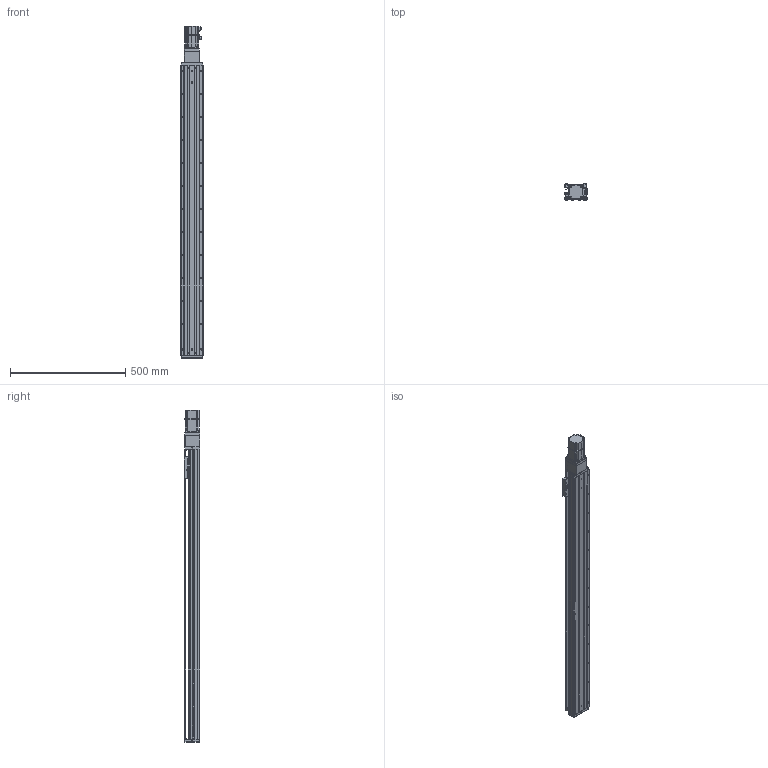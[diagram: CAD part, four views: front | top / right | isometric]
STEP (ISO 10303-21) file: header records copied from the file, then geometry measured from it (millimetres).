
FILE_DESCRIPTION (( 'STEP AP203' ), '1' );
FILE_NAME ('KTHA100-1100-BC-M20-C4L.step', '2022-04-26T01:43:20', ( '微软用户' ), ( '微软中国' ), 'SwSTEP 2.0', 'SolidWorks 2020', '' );
FILE_SCHEMA (( 'CONFIG_CONTROL_DESIGN' ));
Length unit declared in the file: millimetre
Products named in the file (18): CTHA60-016; EE_SX911P_R; GBT 70.3-M3℅6; CTHA60-017; _X2_4E0983F1_X0_200W_1; KTHA100-001_1260; CTHA60-021; CTHA86-013; KTHA100-002; GBT77-2000 M3×3; CTHA86-027; KTHA100-004; GBT 70.1-M3℅6; CTHA86-006-1_CTHA86-006-2; KTHA100-005; GBT70.1 M5℅16; KTHA100-1100-BC-M20-C4L; GB¨uT 70.2-M3¡Á5_M3¡Á6
Assembly tree (56 placements, depth 2):
  KTHA100-1100-BC-M20-C4L
    KTHA100-001_1260
    KTHA100-002
    KTHA100-004
    KTHA100-005
    GB¨uT 70.2-M3¡Á5_M3¡Á6  x6
    EE_SX911P_R  x3
    CTHA60-017  x3
    CTHA60-021  x2
    GBT77-2000 M3×3  x6
    GBT 70.1-M3℅6  x6
    GBT70.1 M5℅16  x14
    CTHA60-016  x2
    GBT 70.3-M3℅6  x6
    _X2_4E0983F1_X0_200W_1
    CTHA86-013
    CTHA86-027
    CTHA86-006-1_CTHA86-006-2
Bounding box: 98.82 x 68 x 1442.5 mm (x, y, z)
Volume: 5306653.8 mm3; surface area: 870132.3 mm2
Topology: 59 solids, 59 shells, 2507 faces, 6024 edges, 3724 vertices
Faces by surface type: plane 1287, cylinder 691, cone 340, torus 104, bspline 69, sphere 16
Entity records: 44828 total; most frequent: CARTESIAN_POINT 8535, DIRECTION 7099, ORIENTED_EDGE 6816, EDGE_CURVE 3408, AXIS2_PLACEMENT_3D 2460, LINE 2179, VECTOR 2179, VERTEX_POINT 2142
